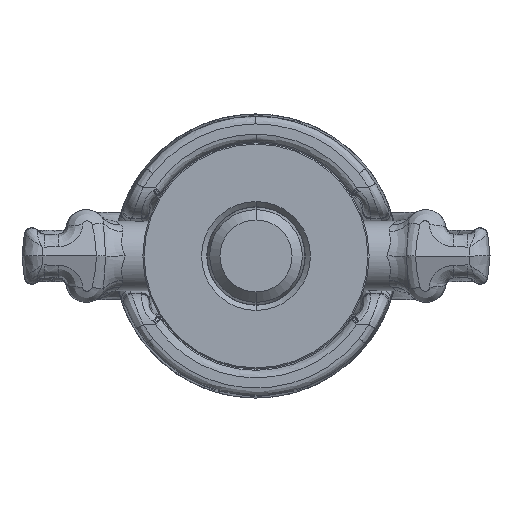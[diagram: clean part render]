
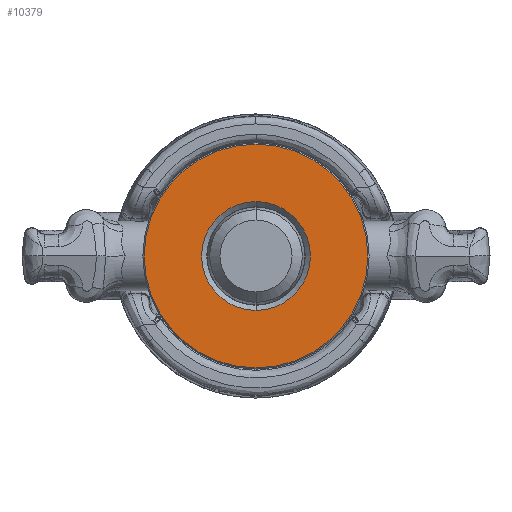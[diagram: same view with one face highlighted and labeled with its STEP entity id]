
A CAD part, front view. The second image highlights one B-rep face of the part: STEP entity #10379.
In plain terms, the highlighted planar face has unit normal (0, -1, 0).
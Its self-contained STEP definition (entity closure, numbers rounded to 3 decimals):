
#9408 = VERTEX_POINT ( 'NONE', #35589 ) ;
#9474 = EDGE_CURVE ( 'NONE', #9592, #9408, #35794, .T. ) ;
#9478 = EDGE_CURVE ( 'NONE', #9591, #9479, #35974, .T. ) ;
#9479 = VERTEX_POINT ( 'NONE', #35843 ) ;
#9591 = VERTEX_POINT ( 'NONE', #36009 ) ;
#9592 = VERTEX_POINT ( 'NONE', #36006 ) ;
#10330 = EDGE_CURVE ( 'NONE', #9408, #9592, #36615, .T. ) ;
#10340 = EDGE_CURVE ( 'NONE', #9479, #9591, #36823, .T. ) ;
#10350 = ORIENTED_EDGE ( 'NONE', *, *, #10330, .F. ) ;
#10365 = ORIENTED_EDGE ( 'NONE', *, *, #10340, .F. ) ;
#10376 = EDGE_LOOP ( 'NONE', ( #10386, #10350 ) ) ;
#10379 = ADVANCED_FACE ( 'NONE', ( #37406, #37405 ), #37404, .F. ) ;
#10383 = ORIENTED_EDGE ( 'NONE', *, *, #9478, .F. ) ;
#10386 = ORIENTED_EDGE ( 'NONE', *, *, #9474, .F. ) ;
#10388 = EDGE_LOOP ( 'NONE', ( #10365, #10383 ) ) ;
#35589 = CARTESIAN_POINT ( 'NONE',  ( 0., 0., -43.5 ) ) ;
#35794 = CIRCLE ( 'NONE', #35982, 43.5 ) ;
#35843 = CARTESIAN_POINT ( 'NONE',  ( 0., 0., -21.15 ) ) ;
#35845 = DIRECTION ( 'NONE',  ( 0., 0., -1. ) ) ;
#35847 = DIRECTION ( 'NONE',  ( 0., -1., 0. ) ) ;
#35849 = AXIS2_PLACEMENT_3D ( 'NONE', #35983, #35847, #35845 ) ;
#35974 = CIRCLE ( 'NONE', #35849, 21.15 ) ;
#35978 = DIRECTION ( 'NONE',  ( 0., 0., 1. ) ) ;
#35980 = DIRECTION ( 'NONE',  ( 0., 1., 0. ) ) ;
#35981 = CARTESIAN_POINT ( 'NONE',  ( 0., 0., 0. ) ) ;
#35982 = AXIS2_PLACEMENT_3D ( 'NONE', #35981, #35980, #35978 ) ;
#35983 = CARTESIAN_POINT ( 'NONE',  ( 0., 0., 0. ) ) ;
#36006 = CARTESIAN_POINT ( 'NONE',  ( 0., 0., 43.5 ) ) ;
#36009 = CARTESIAN_POINT ( 'NONE',  ( 0., 0., 21.15 ) ) ;
#36609 = DIRECTION ( 'NONE',  ( 0., 0., 1. ) ) ;
#36611 = DIRECTION ( 'NONE',  ( 0., 1., 0. ) ) ;
#36613 = AXIS2_PLACEMENT_3D ( 'NONE', #36624, #36611, #36609 ) ;
#36615 = CIRCLE ( 'NONE', #36613, 43.5 ) ;
#36624 = CARTESIAN_POINT ( 'NONE',  ( 0., 0., 0. ) ) ;
#36813 = CARTESIAN_POINT ( 'NONE',  ( 0., 0., 0. ) ) ;
#36823 = CIRCLE ( 'NONE', #36969, 21.15 ) ;
#36967 = DIRECTION ( 'NONE',  ( 0., 0., -1. ) ) ;
#36968 = DIRECTION ( 'NONE',  ( 0., -1., 0. ) ) ;
#36969 = AXIS2_PLACEMENT_3D ( 'NONE', #36813, #36968, #36967 ) ;
#37395 = DIRECTION ( 'NONE',  ( 0., 0., 1. ) ) ;
#37396 = DIRECTION ( 'NONE',  ( 0., 1., 0. ) ) ;
#37397 = CARTESIAN_POINT ( 'NONE',  ( 0., 0., 0. ) ) ;
#37398 = AXIS2_PLACEMENT_3D ( 'NONE', #37397, #37396, #37395 ) ;
#37404 = PLANE ( 'NONE',  #37398 ) ;
#37405 = FACE_OUTER_BOUND ( 'NONE', #10376, .T. ) ;
#37406 = FACE_BOUND ( 'NONE', #10388, .T. ) ;
